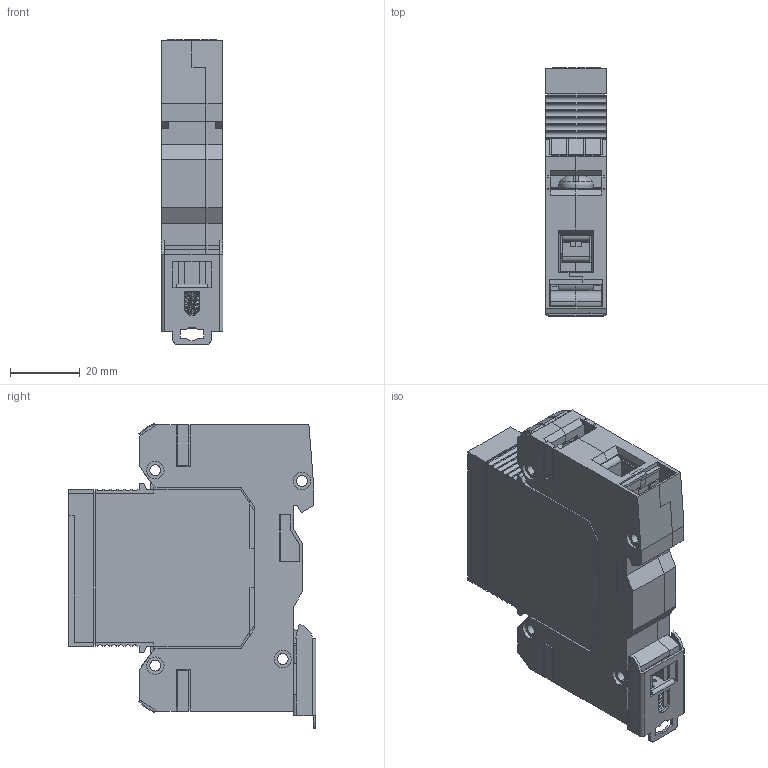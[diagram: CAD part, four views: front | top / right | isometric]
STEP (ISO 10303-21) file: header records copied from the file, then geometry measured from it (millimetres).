
FILE_DESCRIPTION (( 'STEP AP214' ), '1' );
FILE_NAME ('OptiIDn OM 1 ïîëþñ.STEP', '2022-12-05T08:15:10', ( '' ), ( '' ), 'SwSTEP 2.0', 'SolidWorks 2018', '' );
FILE_SCHEMA (( 'AUTOMOTIVE_DESIGN' ));
Length unit declared in the file: millimetre
Products named in the file (18): Çàùåëêà 11-010; Çàãëóøêà ìîäóëÿ Ï 50-083; Çàãëóøêà ìîäóëÿ Ë 50-084; Êîäèðîâî÷íàÿ âñòàâêà; Ïðóæèíà çàùåëêè 13-007; Âûâîä 53-027 îáðåçàíûé äëÿ ñàéòà; OptiIDn OM 1 ïîëþñ; Îñíîâàíèå ìîäóëÿ Ï 50-095 ïóñòîé; 扻豵鵨 01 瀀嚦鍣; Ñüåìíûé ìîäóëü 01 ïóñòîé; Âñòàâêà êîäèðîâî÷íàÿ 50-082; Îñíîâàíèå ìîäóëÿ Ë 50-094(ïóñòîé ñ èçìåíåíûì ãàáàðèòîì)_„«ï ç¥àâ¥¦ ; 署赅 01 矬耱铋; 鎔艜 03-024; Ìåòêà 21-086; Êîëîäêà 03-039 ïîä íîâûé ãàáàðèòû; Ïëàñòèíà 52-040_Š1; ﾂ鏆鮏 01
Assembly tree (23 placements, depth 3):
  OptiIDn OM 1 ïîëþñ
    Îñíîâàíèå ìîäóëÿ Ë 50-094(ïóñòîé ñ èçìåíåíûì ãàáàðèòîì)_„«ï ç¥àâ¥¦ 
    Îñíîâàíèå ìîäóëÿ Ï 50-095 ïóñòîé
    Âûâîä 53-027 îáðåçàíûé äëÿ ñàéòà  x2
    Çàãëóøêà ìîäóëÿ Ë 50-084
    Çàãëóøêà ìîäóëÿ Ï 50-083
    Êîëîäêà 03-039 ïîä íîâûé ãàáàðèòû  x2
    Âñòàâêà êîäèðîâî÷íàÿ 50-082
    鎔艜 03-024  x2
    Ïëàñòèíà 52-040_Š1
    Ìåòêà 21-086  x2
    Ñüåìíûé ìîäóëü 01 ïóñòîé
      扻豵鵨 01 瀀嚦鍣
      署赅 01 矬耱铋
      Êîäèðîâî÷íàÿ âñòàâêà
      ﾂ鏆鮏 01  x2
      Ìåòêà 21-086
    Çàùåëêà 11-010
    Ïðóæèíà çàùåëêè 13-007
Bounding box: 17.6 x 70.98 x 87.56 mm (x, y, z)
Volume: 29025.7 mm3; surface area: 52847.8 mm2
Topology: 22 solids, 22 shells, 2135 faces, 5923 edges, 3851 vertices
Faces by surface type: plane 1738, cylinder 379, torus 8, bspline 8, cone 2
Entity records: 56838 total; most frequent: CARTESIAN_POINT 11780, ORIENTED_EDGE 9512, DIRECTION 8723, EDGE_CURVE 4756, VECTOR 4167, LINE 4167, VERTEX_POINT 3101, AXIS2_PLACEMENT_3D 2278
